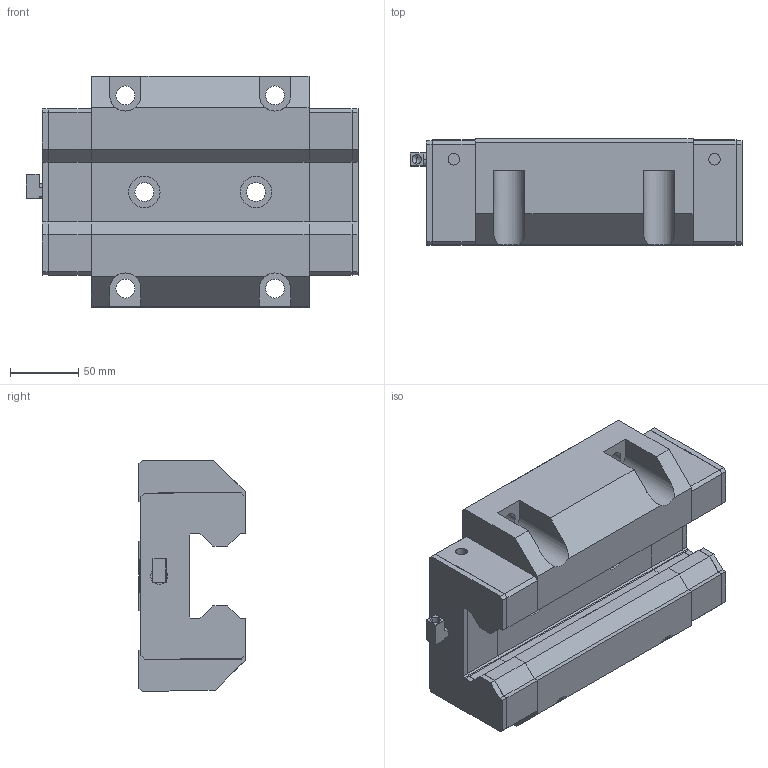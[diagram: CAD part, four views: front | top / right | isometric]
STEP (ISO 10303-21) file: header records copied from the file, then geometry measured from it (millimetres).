
FILE_DESCRIPTION (( 'STEP AP203' ), '1' );
FILE_NAME ('SGW65CC.STEP', '2025-07-11T05:00:13', ( 'Owner' ), ( 'Organization' ), 'SwSTEP 2.0', 'SolidWorks 2020', '' );
FILE_SCHEMA (( 'CONFIG_CONTROL_DESIGN' ));
Length unit declared in the file: millimetre
Products named in the file (1): SGW65CC
Bounding box: 244 x 78 x 170 mm (x, y, z)
Volume: 2059151.6 mm3; surface area: 221326.6 mm2
Topology: 7 solids, 7 shells, 335 faces, 834 edges, 529 vertices
Faces by surface type: plane 259, cylinder 68, cone 8
Entity records: 9871 total; most frequent: CARTESIAN_POINT 1739, ORIENTED_EDGE 1664, DIRECTION 1634, EDGE_CURVE 832, VECTOR 674, LINE 674, VERTEX_POINT 529, AXIS2_PLACEMENT_3D 480
